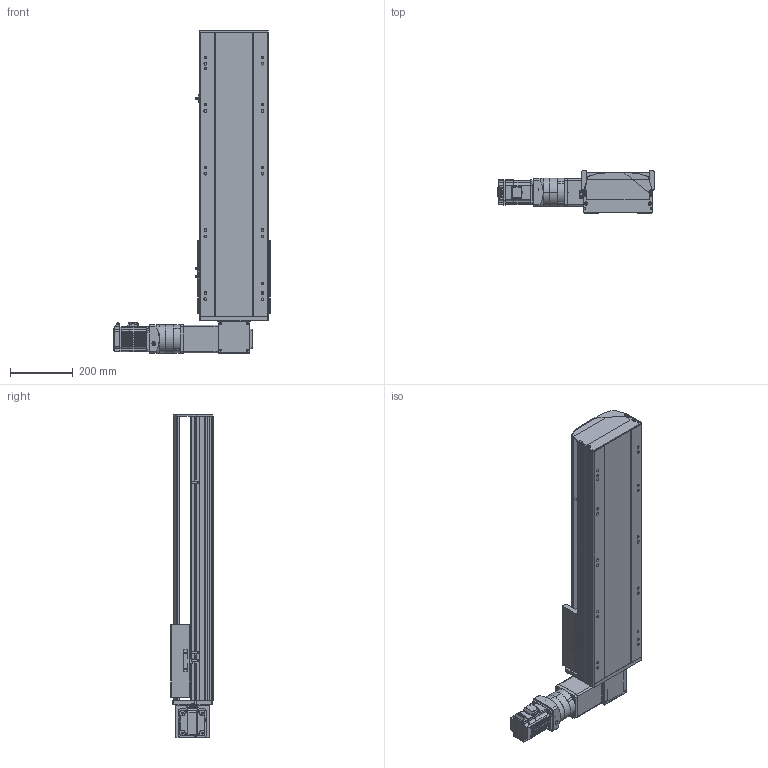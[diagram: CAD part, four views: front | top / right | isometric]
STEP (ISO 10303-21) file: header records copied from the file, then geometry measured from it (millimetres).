
FILE_DESCRIPTION (( 'STEP AP214' ), '1' );
FILE_NAME ('TPT22M-L100-550-LT-PRF90-C4.STEP', '2023-04-12T06:31:00', ( '' ), ( '' ), 'SwSTEP 2.0', 'SolidWorks 2020', '' );
FILE_SCHEMA (( 'AUTOMOTIVE_DESIGN' ));
Length unit declared in the file: millimetre
Products named in the file (16): 葩璃 PRF90 ___w_______.STEP^葩璃 PRF90-L1_TPT22M-L100-LT-PRF90-C4; 葩璃 TPT22-L-007 々湍釱^TPT22M-L100-LT-PRF90-C4; 葩璃 __________ M6x20.STEP^葩璃 PRF90-L1_TPT22M-L100-LT-PRF90-C4; 葩璃 TPT22-L-002 奻裔MZ-220-02^TPT22M-L100-LT-PRF90-C4; 葩璃 ____-6007 35x62x14.STEP^葩璃 PRF90-L1_TPT22M-L100-LT-PRF90-C4; 葩璃 pm-t65-672^TPT22M-L100-LT-PRF90-C4; 葩璃 TPT22-L-005 賑釱MZ-220-03^TPT22M-L100-LT-PRF90-C4; TPT22M-L100-550-LT-PRF90-C4; 葩璃 PRF90-L1^TPT22M-L100-LT-PRF90-C4; 葩璃 PRF90 ___w___D6-90 D7-19 ____.STEP^葩璃 PRF90-L1_TPT22M-L100-LT-PRF90-C4; 葩璃 MSMD08PC_P75^TPT22M-L100-LT-PRF90-C4; 葩璃 PRF90 ______-_____D8-70 D9-90 D10-M5 A2-90 L4-32 L6-47(32+15) L7-6 R-59.5____.STEP^葩璃 PRF90-L1_TPT22M-L100-LT-PRF90-C4; 葩璃 PRF90 ______-_______________.STEP^葩璃 PRF90-L1_TPT22M-L100-LT-PRF90-C4; 葩璃 TPT22-L-001 菁釱MZ-220-01^TPT22M-L100-LT-PRF90-C4; 葩璃 ______ 6x6x25.STEP^葩璃 PRF90-L1_TPT22M-L100-LT-PRF90-C4; 葩璃 萇儂釱 TPT22M^TPT22M-L100-LT-PRF90-C4
Assembly tree (17 placements, depth 3):
  TPT22M-L100-550-LT-PRF90-C4
    葩璃 TPT22-L-001 菁釱MZ-220-01^TPT22M-L100-LT-PRF90-C4
    葩璃 TPT22-L-002 奻裔MZ-220-02^TPT22M-L100-LT-PRF90-C4
    葩璃 TPT22-L-005 賑釱MZ-220-03^TPT22M-L100-LT-PRF90-C4
    葩璃 TPT22-L-007 々湍釱^TPT22M-L100-LT-PRF90-C4
    葩璃 pm-t65-672^TPT22M-L100-LT-PRF90-C4  x3
    葩璃 萇儂釱 TPT22M^TPT22M-L100-LT-PRF90-C4
    葩璃 MSMD08PC_P75^TPT22M-L100-LT-PRF90-C4
    葩璃 PRF90-L1^TPT22M-L100-LT-PRF90-C4
      葩璃 PRF90 ______-_____D8-70 D9-90 D10-M5 A2-90 L4-32 L6-47(32+15) L7-6 R-59.5____.STEP^葩璃 PRF90-L1_TPT22M-L100-LT-PRF90-C4
      葩璃 PRF90 ______-_______________.STEP^葩璃 PRF90-L1_TPT22M-L100-LT-PRF90-C4
      葩璃 PRF90 ___w_______.STEP^葩璃 PRF90-L1_TPT22M-L100-LT-PRF90-C4
      葩璃 PRF90 ___w___D6-90 D7-19 ____.STEP^葩璃 PRF90-L1_TPT22M-L100-LT-PRF90-C4
      葩璃 __________ M6x20.STEP^葩璃 PRF90-L1_TPT22M-L100-LT-PRF90-C4
      葩璃 ______ 6x6x25.STEP^葩璃 PRF90-L1_TPT22M-L100-LT-PRF90-C4
      葩璃 ____-6007 35x62x14.STEP^葩璃 PRF90-L1_TPT22M-L100-LT-PRF90-C4
Bounding box: 497 x 134 x 1027 mm (x, y, z)
Volume: 15736055.2 mm3; surface area: 1769160.2 mm2
Topology: 21 solids, 21 shells, 2269 faces, 6119 edges, 3917 vertices
Faces by surface type: plane 1126, cylinder 817, sphere 132, cone 128, torus 52, bspline 14
Entity records: 73494 total; most frequent: CARTESIAN_POINT 18355, DIRECTION 10847, ORIENTED_EDGE 10614, EDGE_CURVE 5307, AXIS2_PLACEMENT_3D 3946, VERTEX_POINT 3467, VECTOR 2955, LINE 2955
